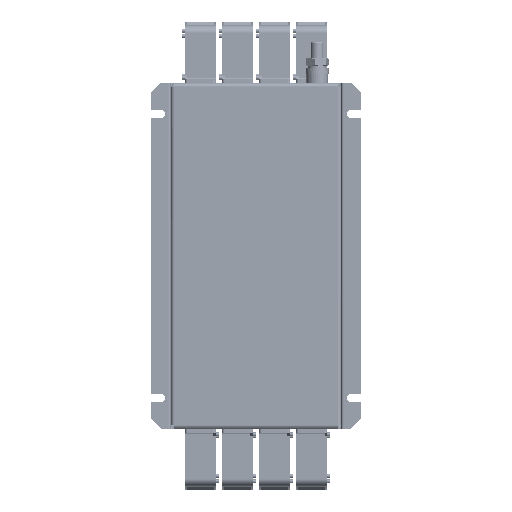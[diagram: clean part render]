
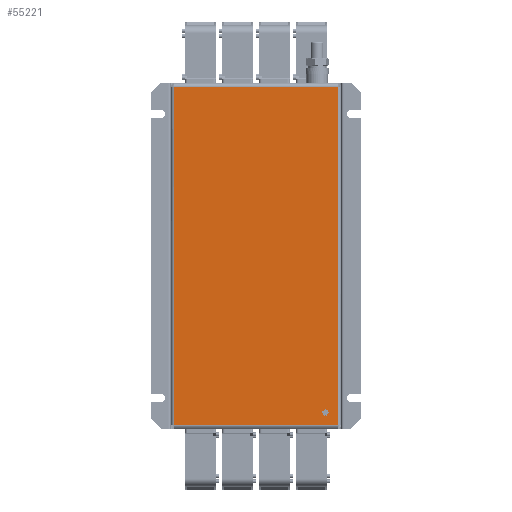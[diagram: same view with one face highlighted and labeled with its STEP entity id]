
A CAD part, left-side view. The second image highlights one B-rep face of the part: STEP entity #55221.
In plain terms, the highlighted planar face has unit normal (-1, 0, 0).
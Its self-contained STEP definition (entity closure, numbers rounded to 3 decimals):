
#26 = CARTESIAN_POINT ( 'NONE',  ( 0., -24.8, -142.2 ) ) ;
#98 = VECTOR ( 'NONE', #9295, 1000. ) ;
#1738 = CARTESIAN_POINT ( 'NONE',  ( 0., -34.8, -152.2 ) ) ;
#3440 = VERTEX_POINT ( 'NONE', #36566 ) ;
#3719 = CARTESIAN_POINT ( 'NONE',  ( 0., 97.2, -152.2 ) ) ;
#4844 = AXIS2_PLACEMENT_3D ( 'NONE', #19420, #37634, #71822 ) ;
#7094 = VECTOR ( 'NONE', #73313, 1000. ) ;
#9295 = DIRECTION ( 'NONE',  ( 0., 1., 0. ) ) ;
#10325 = VERTEX_POINT ( 'NONE', #1738 ) ;
#10806 = DIRECTION ( 'NONE',  ( 1., 0., 0. ) ) ;
#11261 = CARTESIAN_POINT ( 'NONE',  ( 0., 65.7, -152.2 ) ) ;
#11653 = EDGE_LOOP ( 'NONE', ( #48612, #50526 ) ) ;
#12257 = DIRECTION ( 'NONE',  ( 0., 0., -1. ) ) ;
#13710 = CARTESIAN_POINT ( 'NONE',  ( 0., -24.8, -142.2 ) ) ;
#14589 = FACE_BOUND ( 'NONE', #11653, .T. ) ;
#15548 = CARTESIAN_POINT ( 'NONE',  ( 0., 97.2, 53.3 ) ) ;
#18684 = CIRCLE ( 'NONE', #64987, 2. ) ;
#18837 = VERTEX_POINT ( 'NONE', #66831 ) ;
#19420 = CARTESIAN_POINT ( 'NONE',  ( 0., 31.2, -15.2 ) ) ;
#20656 = VECTOR ( 'NONE', #66835, 1000. ) ;
#24087 = DIRECTION ( 'NONE',  ( 0., 0., 1. ) ) ;
#24697 = ORIENTED_EDGE ( 'NONE', *, *, #32569, .T. ) ;
#25620 = ORIENTED_EDGE ( 'NONE', *, *, #65984, .T. ) ;
#26106 = PLANE ( 'NONE',  #4844 ) ;
#32569 = EDGE_CURVE ( 'NONE', #10325, #18837, #67971, .T. ) ;
#34472 = EDGE_LOOP ( 'NONE', ( #68157, #25620, #24697, #36002 ) ) ;
#34924 = VERTEX_POINT ( 'NONE', #3719 ) ;
#34989 = VECTOR ( 'NONE', #24087, 1000. ) ;
#36002 = ORIENTED_EDGE ( 'NONE', *, *, #54787, .T. ) ;
#36566 = CARTESIAN_POINT ( 'NONE',  ( 0., 97.2, 121.8 ) ) ;
#37634 = DIRECTION ( 'NONE',  ( 1., 0., 0. ) ) ;
#38258 = CARTESIAN_POINT ( 'NONE',  ( 0., -3.3, 121.8 ) ) ;
#38981 = VERTEX_POINT ( 'NONE', #47169 ) ;
#40045 = EDGE_CURVE ( 'NONE', #3440, #34924, #62003, .T. ) ;
#41191 = CARTESIAN_POINT ( 'NONE',  ( 0., -34.8, -83.7 ) ) ;
#42690 = DIRECTION ( 'NONE',  ( 0., 0., -1. ) ) ;
#44481 = EDGE_CURVE ( 'NONE', #70126, #38981, #18684, .T. ) ;
#44940 = CARTESIAN_POINT ( 'NONE',  ( 0., -24.8, -140.2 ) ) ;
#47169 = CARTESIAN_POINT ( 'NONE',  ( 0., -24.8, -144.2 ) ) ;
#48612 = ORIENTED_EDGE ( 'NONE', *, *, #71240, .T. ) ;
#49049 = CIRCLE ( 'NONE', #53811, 2. ) ;
#50526 = ORIENTED_EDGE ( 'NONE', *, *, #44481, .T. ) ;
#50666 = LINE ( 'NONE', #11261, #7094 ) ;
#53811 = AXIS2_PLACEMENT_3D ( 'NONE', #26, #10806, #12257 ) ;
#54787 = EDGE_CURVE ( 'NONE', #18837, #3440, #55006, .T. ) ;
#55006 = LINE ( 'NONE', #38258, #98 ) ;
#55221 = ADVANCED_FACE ( 'NONE', ( #14589, #71089 ), #26106, .F. ) ;
#62003 = LINE ( 'NONE', #15548, #20656 ) ;
#64609 = DIRECTION ( 'NONE',  ( 1., 0., 0. ) ) ;
#64987 = AXIS2_PLACEMENT_3D ( 'NONE', #13710, #64609, #42690 ) ;
#65984 = EDGE_CURVE ( 'NONE', #34924, #10325, #50666, .T. ) ;
#66831 = CARTESIAN_POINT ( 'NONE',  ( 0., -34.8, 121.8 ) ) ;
#66835 = DIRECTION ( 'NONE',  ( 0., 0., -1. ) ) ;
#67971 = LINE ( 'NONE', #41191, #34989 ) ;
#68157 = ORIENTED_EDGE ( 'NONE', *, *, #40045, .T. ) ;
#70126 = VERTEX_POINT ( 'NONE', #44940 ) ;
#71089 = FACE_OUTER_BOUND ( 'NONE', #34472, .T. ) ;
#71240 = EDGE_CURVE ( 'NONE', #38981, #70126, #49049, .T. ) ;
#71822 = DIRECTION ( 'NONE',  ( 0., 1., 0. ) ) ;
#73313 = DIRECTION ( 'NONE',  ( 0., -1., 0. ) ) ;
